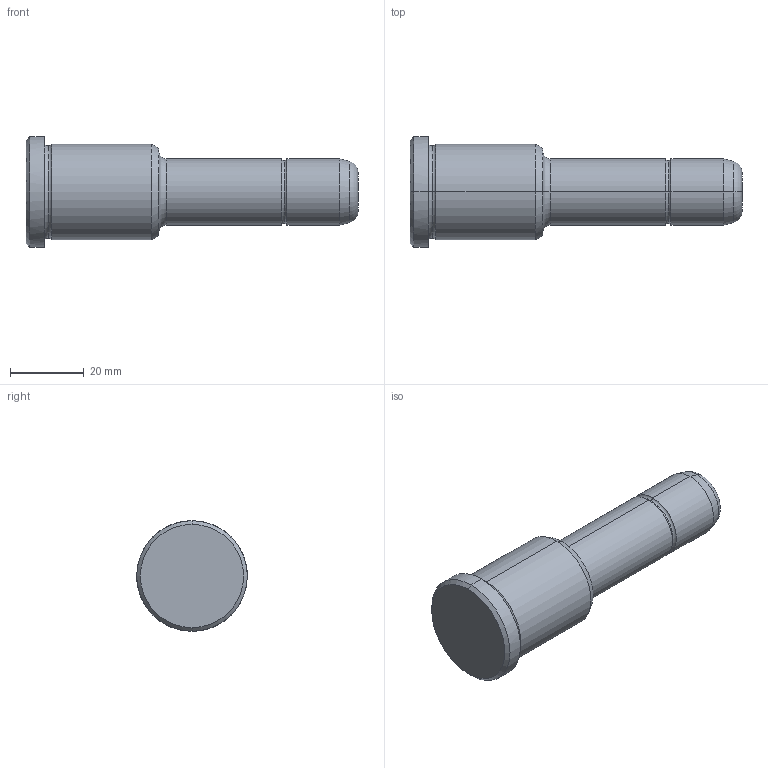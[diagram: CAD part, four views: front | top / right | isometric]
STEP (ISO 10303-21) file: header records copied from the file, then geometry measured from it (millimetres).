
FILE_DESCRIPTION(('CATIA V5 STEP Exchange'),'2;1');
FILE_NAME('C:\Users\Utente\Desktop\IO LAVORO\3D X SITO CF\X SITO\PLASTICA\351\351-18X36X90.stp','2021-08-19T12:42:14+00:00',('none'),('none'),'CATIA Version 5 Release 20 GA (IN-10)','CATIA V5 STEP AP203','none');
FILE_SCHEMA(('CONFIG_CONTROL_DESIGN'));
Length unit declared in the file: millimetre
Products named in the file (1): 351-18X36X90
Bounding box: 90 x 30 x 30 mm (x, y, z)
Volume: 33333.6 mm3; surface area: 7219.3 mm2
Topology: 1 solids, 1 shells, 30 faces, 86 edges, 60 vertices
Faces by surface type: torus 12, cylinder 8, cone 6, plane 4
Entity records: 1112 total; most frequent: CARTESIAN_POINT 289, ORIENTED_EDGE 172, DIRECTION 138, AXIS2_PLACEMENT_3D 95, EDGE_CURVE 86, CIRCLE 64, VERTEX_POINT 60, EDGE_LOOP 32
